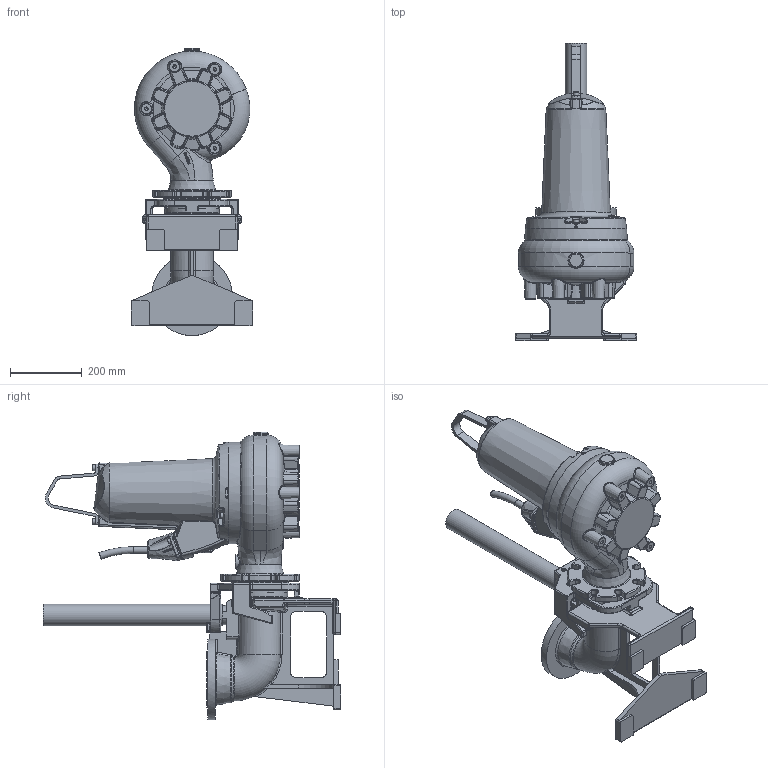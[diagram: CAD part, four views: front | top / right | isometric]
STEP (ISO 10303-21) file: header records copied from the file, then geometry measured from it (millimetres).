
FILE_DESCRIPTION (( 'STEP AP203' ), '1' );
FILE_NAME ('XFP100C-VX_PE1_Wet_2Inch Rail-.step', '2024-01-16T15:24:12', ( '' ), ( '' ), 'SwSTEP 2.0', 'SolidWorks 2017', '' );
FILE_SCHEMA (( 'CONFIG_CONTROL_DESIGN' ));
Products named in the file (2): XFP100C-VX_PE1_Wet_2Inch Rail-
Bounding box: 340 x 831 x 803.42 mm (x, y, z)
Volume: 35262700.1 mm3; surface area: 1608464.9 mm2
Topology: 11 solids, 12 shells, 2487 faces, 5920 edges, 3336 vertices
Faces by surface type: bspline 807, cylinder 662, plane 494, torus 322, sphere 131, cone 71
Full cylindrical faces by diameter (mm): 6 x1, 6.8 x2, 8 x8, 8.5 x2, 8.8 x7, 9 x2, 10 x10, 11 x3, 13 x4, 15 x2, 16 x5, 18 x12, 18.7 x1, 40 x1, 53 x1, 60.3 x1, 158 x1, 225 x1
Entity records: 106408 total; most frequent: CARTESIAN_POINT 56702, ORIENTED_EDGE 11112, DIRECTION 9210, EDGE_CURVE 5556, AXIS2_PLACEMENT_3D 3804, VERTEX_POINT 3279, EDGE_LOOP 2711, FACE_OUTER_BOUND 2587
